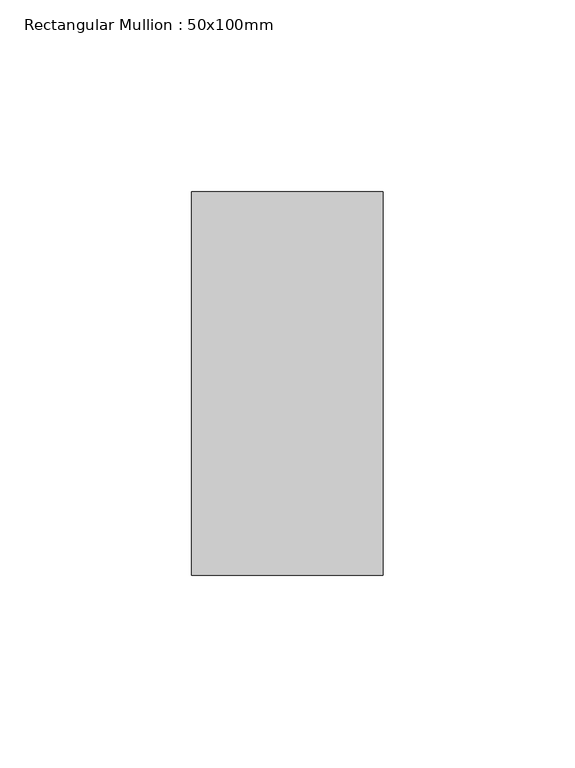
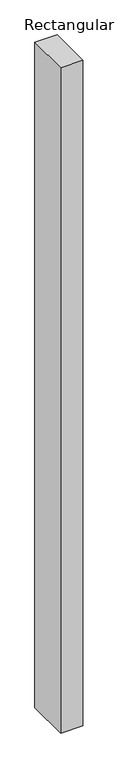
"""IFC4 building model written with IfcOpenShell, lengths in millimetres: member geometry, Rectangular Mullion : 50x100mm."""

from ifc_helpers import new_model, si_unit, frame, origin, place, context, project, spatial, polyline, outline, extrude, source, transform, mapped, element, save


def rectangular_mullion_50x100mm_35a4e085(model_context):
    return source(origin(), model_context, "Body", "SweptSolid", [
        extrude(outline(polyline([(25.0, 50.0), (25.0, -50.0), (-25.0, -50.0), (-25.0, 50.0), (25.0, 50.0)])), frame((0.0, 0.0, -1579.2622209), z_axis=(0.0, 0.0, 1.0), x_axis=(1.0, 0.0, 0.0)), (0.0, 0.0, 1.0), 1579.2622209),
    ])


if __name__ == "__main__":
    model = new_model("IFC4")
    model_context = context("Model", 3, world=origin())
    ifc_project = project(units=[si_unit("LENGTHUNIT", "METRE", prefix="MILLI")], contexts=[model_context])
    site = spatial("IfcSite", under=ifc_project)
    building = spatial("IfcBuilding", under=site)
    placement = place(None, origin())
    rectangular_mullion_50x100mm_shape = rectangular_mullion_50x100mm_35a4e085(model_context)
    element("IfcMember", 1, ObjectType="Rectangular Mullion : 50x100mm", at=placement, inside=building, context=model_context, shape_type="MappedRepresentation", body=[
        mapped(rectangular_mullion_50x100mm_shape, transform((0.0, 0.0, 0.0), x_axis=(1.0, 0.0, 0.0), y_axis=(0.0, 1.0, 0.0), z_axis=(0.0, 0.0, 1.0))),
    ])
    save(model, "model.ifc")
